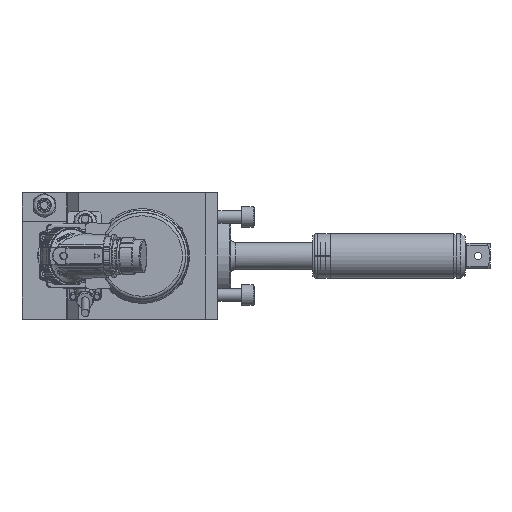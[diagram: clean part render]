
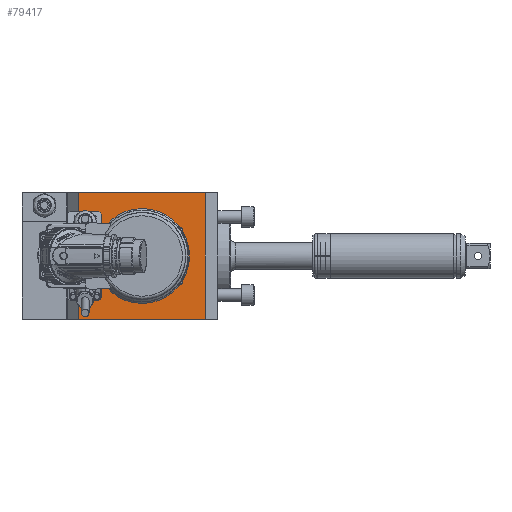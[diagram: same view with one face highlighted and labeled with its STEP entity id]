
A CAD part, left-side view. The second image highlights one B-rep face of the part: STEP entity #79417.
In plain terms, the highlighted planar face has unit normal (-1, 0, 0).
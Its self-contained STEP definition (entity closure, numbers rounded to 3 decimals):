
#736 = VERTEX_POINT ( 'NONE', #46692 ) ;
#2722 = CIRCLE ( 'NONE', #108149, 30. ) ;
#5099 = EDGE_LOOP ( 'NONE', ( #107004 ) ) ;
#5743 = LINE ( 'NONE', #31858, #70564 ) ;
#12381 = CARTESIAN_POINT ( 'NONE',  ( -73.5, 8., -40. ) ) ;
#15053 = DIRECTION ( 'NONE',  ( 1., 0., 0. ) ) ;
#16348 = FACE_BOUND ( 'NONE', #5099, .T. ) ;
#16908 = ORIENTED_EDGE ( 'NONE', *, *, #56624, .F. ) ;
#16984 = FACE_OUTER_BOUND ( 'NONE', #109306, .T. ) ;
#17412 = CARTESIAN_POINT ( 'NONE',  ( -73.5, 88., 40. ) ) ;
#24982 = LINE ( 'NONE', #59941, #25616 ) ;
#25616 = VECTOR ( 'NONE', #68668, 1000. ) ;
#25835 = DIRECTION ( 'NONE',  ( 0., 0., 1. ) ) ;
#26885 = VERTEX_POINT ( 'NONE', #62592 ) ;
#28002 = EDGE_CURVE ( 'NONE', #77745, #736, #5743, .T. ) ;
#28725 = CARTESIAN_POINT ( 'NONE',  ( -73.5, 48., 0. ) ) ;
#31858 = CARTESIAN_POINT ( 'NONE',  ( -73.5, 8., -40. ) ) ;
#32400 = VERTEX_POINT ( 'NONE', #81909 ) ;
#38795 = CARTESIAN_POINT ( 'NONE',  ( -73.5, 8., 40. ) ) ;
#46692 = CARTESIAN_POINT ( 'NONE',  ( -73.5, 88., -40. ) ) ;
#48536 = EDGE_CURVE ( 'NONE', #26885, #70151, #56840, .T. ) ;
#56342 = VECTOR ( 'NONE', #91565, 1000. ) ;
#56624 = EDGE_CURVE ( 'NONE', #70151, #77745, #24982, .T. ) ;
#56840 = LINE ( 'NONE', #74561, #56342 ) ;
#57269 = DIRECTION ( 'NONE',  ( 0., 1., 0. ) ) ;
#59941 = CARTESIAN_POINT ( 'NONE',  ( -73.5, 8., 40. ) ) ;
#62592 = CARTESIAN_POINT ( 'NONE',  ( -73.5, 88., 40. ) ) ;
#65369 = CARTESIAN_POINT ( 'NONE',  ( -73.5, 48., 0. ) ) ;
#66544 = EDGE_CURVE ( 'NONE', #32400, #32400, #2722, .T. ) ;
#68668 = DIRECTION ( 'NONE',  ( 0., 0., -1. ) ) ;
#70151 = VERTEX_POINT ( 'NONE', #38795 ) ;
#70564 = VECTOR ( 'NONE', #57269, 1000. ) ;
#71913 = AXIS2_PLACEMENT_3D ( 'NONE', #28725, #79250, #104776 ) ;
#73888 = DIRECTION ( 'NONE',  ( 0., 0., 1. ) ) ;
#74561 = CARTESIAN_POINT ( 'NONE',  ( -73.5, 8., 40. ) ) ;
#77745 = VERTEX_POINT ( 'NONE', #12381 ) ;
#79250 = DIRECTION ( 'NONE',  ( -1., 0., 0. ) ) ;
#79412 = VECTOR ( 'NONE', #25835, 1000. ) ;
#79417 = ADVANCED_FACE ( 'NONE', ( #16984, #16348 ), #96214, .T. ) ;
#79821 = LINE ( 'NONE', #17412, #79412 ) ;
#79943 = ORIENTED_EDGE ( 'NONE', *, *, #48536, .F. ) ;
#81909 = CARTESIAN_POINT ( 'NONE',  ( -73.5, 48., 30. ) ) ;
#87827 = ORIENTED_EDGE ( 'NONE', *, *, #28002, .F. ) ;
#91565 = DIRECTION ( 'NONE',  ( 0., -1., 0. ) ) ;
#96214 = PLANE ( 'NONE',  #71913 ) ;
#104776 = DIRECTION ( 'NONE',  ( 0., 0., 1. ) ) ;
#107004 = ORIENTED_EDGE ( 'NONE', *, *, #66544, .T. ) ;
#108136 = ORIENTED_EDGE ( 'NONE', *, *, #108540, .F. ) ;
#108149 = AXIS2_PLACEMENT_3D ( 'NONE', #65369, #15053, #73888 ) ;
#108540 = EDGE_CURVE ( 'NONE', #736, #26885, #79821, .T. ) ;
#109306 = EDGE_LOOP ( 'NONE', ( #16908, #79943, #108136, #87827 ) ) ;
